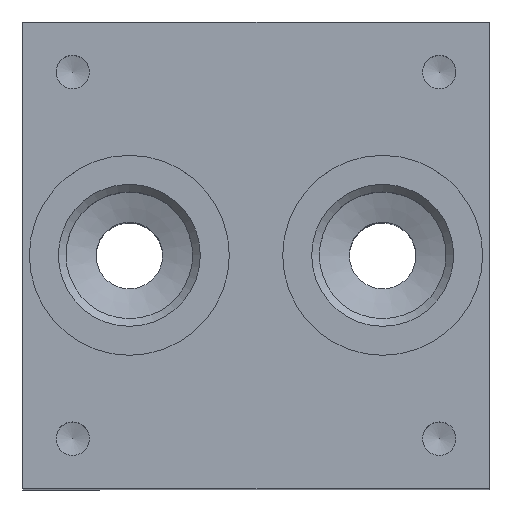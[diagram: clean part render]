
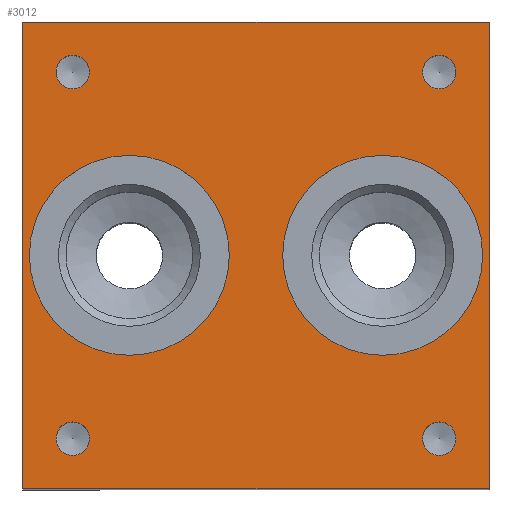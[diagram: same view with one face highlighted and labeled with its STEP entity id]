
A CAD part, top view. The second image highlights one B-rep face of the part: STEP entity #3012.
In plain terms, the highlighted planar face has unit normal (0, 0, 1).
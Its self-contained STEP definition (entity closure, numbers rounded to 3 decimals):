
#14 = DIRECTION ( 'NONE',  ( 1., 0., 0. ) ) ;
#29 = DIRECTION ( 'NONE',  ( 0., -1., 0. ) ) ;
#31 = ORIENTED_EDGE ( 'NONE', *, *, #234, .F. ) ;
#45 = EDGE_LOOP ( 'NONE', ( #1874 ) ) ;
#72 = DIRECTION ( 'NONE',  ( 1., 0., 0. ) ) ;
#79 = AXIS2_PLACEMENT_3D ( 'NONE', #3277, #2642, #505 ) ;
#118 = ORIENTED_EDGE ( 'NONE', *, *, #3321, .T. ) ;
#149 = EDGE_LOOP ( 'NONE', ( #2012 ) ) ;
#154 = FACE_OUTER_BOUND ( 'NONE', #3997, .T. ) ;
#234 = EDGE_CURVE ( 'NONE', #2886, #2886, #1769, .T. ) ;
#389 = LINE ( 'NONE', #642, #2261 ) ;
#422 = VECTOR ( 'NONE', #2011, 1000. ) ;
#496 = FACE_BOUND ( 'NONE', #1557, .T. ) ;
#505 = DIRECTION ( 'NONE',  ( 1., 0., 0. ) ) ;
#506 = VERTEX_POINT ( 'NONE', #650 ) ;
#573 = DIRECTION ( 'NONE',  ( 0., 0., 1. ) ) ;
#642 = CARTESIAN_POINT ( 'NONE',  ( 35., 35., 60. ) ) ;
#650 = CARTESIAN_POINT ( 'NONE',  ( 35., -35., 60. ) ) ;
#702 = DIRECTION ( 'NONE',  ( 0., 0., 1. ) ) ;
#718 = CIRCLE ( 'NONE', #1620, 2.5 ) ;
#724 = VECTOR ( 'NONE', #880, 1000. ) ;
#788 = DIRECTION ( 'NONE',  ( -1., 0., 0. ) ) ;
#880 = DIRECTION ( 'NONE',  ( 1., 0., 0. ) ) ;
#896 = ORIENTED_EDGE ( 'NONE', *, *, #3157, .F. ) ;
#901 = AXIS2_PLACEMENT_3D ( 'NONE', #2845, #702, #72 ) ;
#931 = CARTESIAN_POINT ( 'NONE',  ( 30., 27.5, 60. ) ) ;
#955 = CIRCLE ( 'NONE', #1032, 2.5 ) ;
#1032 = AXIS2_PLACEMENT_3D ( 'NONE', #3648, #573, #2103 ) ;
#1108 = ORIENTED_EDGE ( 'NONE', *, *, #1488, .T. ) ;
#1174 = EDGE_CURVE ( 'NONE', #3337, #3337, #2530, .T. ) ;
#1319 = AXIS2_PLACEMENT_3D ( 'NONE', #1578, #2529, #14 ) ;
#1349 = DIRECTION ( 'NONE',  ( 0., -1., 0. ) ) ;
#1438 = FACE_BOUND ( 'NONE', #149, .T. ) ;
#1458 = PLANE ( 'NONE',  #2509 ) ;
#1488 = EDGE_CURVE ( 'NONE', #506, #1543, #389, .T. ) ;
#1543 = VERTEX_POINT ( 'NONE', #3934 ) ;
#1557 = EDGE_LOOP ( 'NONE', ( #896 ) ) ;
#1578 = CARTESIAN_POINT ( 'NONE',  ( 27.5, -27.5, 60. ) ) ;
#1581 = EDGE_CURVE ( 'NONE', #1543, #2091, #3578, .T. ) ;
#1620 = AXIS2_PLACEMENT_3D ( 'NONE', #2312, #2621, #3856 ) ;
#1688 = EDGE_LOOP ( 'NONE', ( #2344 ) ) ;
#1736 = EDGE_CURVE ( 'NONE', #2091, #3686, #3665, .T. ) ;
#1763 = CARTESIAN_POINT ( 'NONE',  ( 35., -35., 60. ) ) ;
#1769 = CIRCLE ( 'NONE', #3846, 15. ) ;
#1784 = LINE ( 'NONE', #1763, #724 ) ;
#1796 = CARTESIAN_POINT ( 'NONE',  ( -25., -27.5, 60. ) ) ;
#1871 = ORIENTED_EDGE ( 'NONE', *, *, #1174, .F. ) ;
#1874 = ORIENTED_EDGE ( 'NONE', *, *, #3829, .F. ) ;
#1879 = CARTESIAN_POINT ( 'NONE',  ( 30., -27.5, 60. ) ) ;
#1977 = ORIENTED_EDGE ( 'NONE', *, *, #1581, .T. ) ;
#2011 = DIRECTION ( 'NONE',  ( -1., 0., 0. ) ) ;
#2012 = ORIENTED_EDGE ( 'NONE', *, *, #2044, .F. ) ;
#2044 = EDGE_CURVE ( 'NONE', #3411, #3411, #718, .T. ) ;
#2087 = CARTESIAN_POINT ( 'NONE',  ( 34., 0., 60. ) ) ;
#2091 = VERTEX_POINT ( 'NONE', #2209 ) ;
#2103 = DIRECTION ( 'NONE',  ( 1., 0., 0. ) ) ;
#2209 = CARTESIAN_POINT ( 'NONE',  ( -35., 35., 60. ) ) ;
#2261 = VECTOR ( 'NONE', #3131, 1000. ) ;
#2267 = VERTEX_POINT ( 'NONE', #2656 ) ;
#2312 = CARTESIAN_POINT ( 'NONE',  ( 27.5, 27.5, 60. ) ) ;
#2313 = CARTESIAN_POINT ( 'NONE',  ( 35., 35., 60. ) ) ;
#2344 = ORIENTED_EDGE ( 'NONE', *, *, #2476, .F. ) ;
#2404 = CARTESIAN_POINT ( 'NONE',  ( -35., -35., 60. ) ) ;
#2476 = EDGE_CURVE ( 'NONE', #2528, #2528, #2612, .T. ) ;
#2509 = AXIS2_PLACEMENT_3D ( 'NONE', #2963, #3286, #788 ) ;
#2528 = VERTEX_POINT ( 'NONE', #1879 ) ;
#2529 = DIRECTION ( 'NONE',  ( 0., 0., 1. ) ) ;
#2530 = CIRCLE ( 'NONE', #79, 2.5 ) ;
#2612 = CIRCLE ( 'NONE', #1319, 2.5 ) ;
#2621 = DIRECTION ( 'NONE',  ( 0., 0., 1. ) ) ;
#2632 = FACE_BOUND ( 'NONE', #2846, .T. ) ;
#2642 = DIRECTION ( 'NONE',  ( 0., 0., 1. ) ) ;
#2656 = CARTESIAN_POINT ( 'NONE',  ( -25., 27.5, 60. ) ) ;
#2834 = CIRCLE ( 'NONE', #901, 15. ) ;
#2845 = CARTESIAN_POINT ( 'NONE',  ( 19., 0., 60. ) ) ;
#2846 = EDGE_LOOP ( 'NONE', ( #1871 ) ) ;
#2886 = VERTEX_POINT ( 'NONE', #2891 ) ;
#2891 = CARTESIAN_POINT ( 'NONE',  ( -19., -15., 60. ) ) ;
#2897 = EDGE_LOOP ( 'NONE', ( #31 ) ) ;
#2918 = FACE_BOUND ( 'NONE', #1688, .T. ) ;
#2936 = DIRECTION ( 'NONE',  ( 0., 0., 1. ) ) ;
#2963 = CARTESIAN_POINT ( 'NONE',  ( 0., 0., 60. ) ) ;
#2986 = VERTEX_POINT ( 'NONE', #2087 ) ;
#3012 = ADVANCED_FACE ( 'NONE', ( #3844, #3266, #496, #1438, #2918, #2632, #154 ), #1458, .F. ) ;
#3111 = VECTOR ( 'NONE', #29, 1000. ) ;
#3131 = DIRECTION ( 'NONE',  ( 0., 1., 0. ) ) ;
#3157 = EDGE_CURVE ( 'NONE', #2267, #2267, #955, .T. ) ;
#3169 = CARTESIAN_POINT ( 'NONE',  ( -19., 0., 60. ) ) ;
#3266 = FACE_BOUND ( 'NONE', #2897, .T. ) ;
#3277 = CARTESIAN_POINT ( 'NONE',  ( -27.5, -27.5, 60. ) ) ;
#3286 = DIRECTION ( 'NONE',  ( 0., 0., -1. ) ) ;
#3321 = EDGE_CURVE ( 'NONE', #3686, #506, #1784, .T. ) ;
#3337 = VERTEX_POINT ( 'NONE', #1796 ) ;
#3411 = VERTEX_POINT ( 'NONE', #931 ) ;
#3507 = ORIENTED_EDGE ( 'NONE', *, *, #1736, .T. ) ;
#3578 = LINE ( 'NONE', #2313, #422 ) ;
#3648 = CARTESIAN_POINT ( 'NONE',  ( -27.5, 27.5, 60. ) ) ;
#3665 = LINE ( 'NONE', #3703, #3111 ) ;
#3686 = VERTEX_POINT ( 'NONE', #2404 ) ;
#3703 = CARTESIAN_POINT ( 'NONE',  ( -35., 35., 60. ) ) ;
#3829 = EDGE_CURVE ( 'NONE', #2986, #2986, #2834, .T. ) ;
#3844 = FACE_BOUND ( 'NONE', #45, .T. ) ;
#3846 = AXIS2_PLACEMENT_3D ( 'NONE', #3169, #2936, #1349 ) ;
#3856 = DIRECTION ( 'NONE',  ( 1., 0., 0. ) ) ;
#3934 = CARTESIAN_POINT ( 'NONE',  ( 35., 35., 60. ) ) ;
#3997 = EDGE_LOOP ( 'NONE', ( #1108, #1977, #3507, #118 ) ) ;
